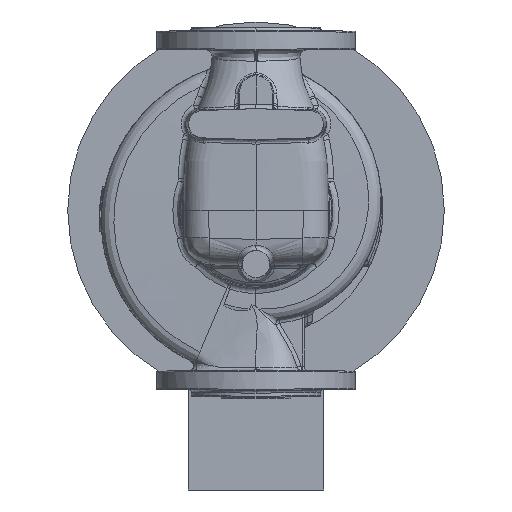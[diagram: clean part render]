
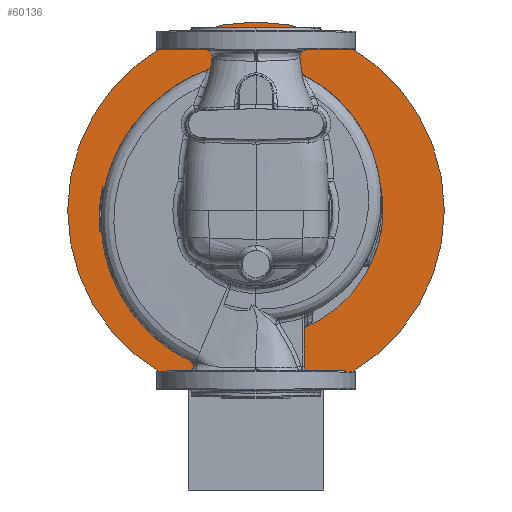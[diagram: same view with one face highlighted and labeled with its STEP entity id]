
A CAD part, front view. The second image highlights one B-rep face of the part: STEP entity #60136.
In plain terms, the highlighted planar face has unit normal (0, -1, 0).
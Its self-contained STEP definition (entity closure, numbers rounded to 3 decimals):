
#150 = PLANE ( 'NONE',  #49321 ) ;
#865 = CARTESIAN_POINT ( 'NONE',  ( 105., 236.3, 0. ) ) ;
#1829 = ORIENTED_EDGE ( 'NONE', *, *, #52069, .T. ) ;
#2861 = VERTEX_POINT ( 'NONE', #25982 ) ;
#4620 = CIRCLE ( 'NONE', #9866, 105. ) ;
#5198 = DIRECTION ( 'NONE',  ( 0., -1., 0. ) ) ;
#5263 = CARTESIAN_POINT ( 'NONE',  ( 0., 236.3, 0. ) ) ;
#6072 = EDGE_CURVE ( 'NONE', #41212, #2861, #4620, .T. ) ;
#9672 = VERTEX_POINT ( 'NONE', #42448 ) ;
#9866 = AXIS2_PLACEMENT_3D ( 'NONE', #42744, #26203, #64430 ) ;
#11528 = EDGE_LOOP ( 'NONE', ( #1829, #54154 ) ) ;
#11871 = ORIENTED_EDGE ( 'NONE', *, *, #12565, .F. ) ;
#12565 = EDGE_CURVE ( 'NONE', #2861, #41212, #16819, .T. ) ;
#13212 = CARTESIAN_POINT ( 'NONE',  ( 0., 236.3, -175. ) ) ;
#13351 = AXIS2_PLACEMENT_3D ( 'NONE', #41956, #35720, #25442 ) ;
#16819 = CIRCLE ( 'NONE', #60286, 105. ) ;
#21254 = AXIS2_PLACEMENT_3D ( 'NONE', #5263, #37599, #21791 ) ;
#21791 = DIRECTION ( 'NONE',  ( 0., 0., -1. ) ) ;
#25442 = DIRECTION ( 'NONE',  ( 0., 0., -1. ) ) ;
#25809 = VERTEX_POINT ( 'NONE', #13212 ) ;
#25982 = CARTESIAN_POINT ( 'NONE',  ( 0., 236.3, 105. ) ) ;
#26203 = DIRECTION ( 'NONE',  ( 0., -1., 0. ) ) ;
#28857 = CIRCLE ( 'NONE', #13351, 175. ) ;
#30682 = CIRCLE ( 'NONE', #21254, 175. ) ;
#35720 = DIRECTION ( 'NONE',  ( 0., -1., 0. ) ) ;
#37599 = DIRECTION ( 'NONE',  ( 0., -1., 0. ) ) ;
#38198 = EDGE_LOOP ( 'NONE', ( #42720, #11871 ) ) ;
#38941 = DIRECTION ( 'NONE',  ( 0., 1., 0. ) ) ;
#41212 = VERTEX_POINT ( 'NONE', #49413 ) ;
#41956 = CARTESIAN_POINT ( 'NONE',  ( 0., 236.3, 0. ) ) ;
#42448 = CARTESIAN_POINT ( 'NONE',  ( 0., 236.3, 175. ) ) ;
#42720 = ORIENTED_EDGE ( 'NONE', *, *, #6072, .F. ) ;
#42744 = CARTESIAN_POINT ( 'NONE',  ( 0., 236.3, 0. ) ) ;
#48709 = DIRECTION ( 'NONE',  ( 0., 0., -1. ) ) ;
#49321 = AXIS2_PLACEMENT_3D ( 'NONE', #865, #38941, #50846 ) ;
#49353 = EDGE_CURVE ( 'NONE', #9672, #25809, #28857, .T. ) ;
#49413 = CARTESIAN_POINT ( 'NONE',  ( 0., 236.3, -105. ) ) ;
#50846 = DIRECTION ( 'NONE',  ( 0., 0., 1. ) ) ;
#51584 = FACE_BOUND ( 'NONE', #38198, .T. ) ;
#52069 = EDGE_CURVE ( 'NONE', #25809, #9672, #30682, .T. ) ;
#54154 = ORIENTED_EDGE ( 'NONE', *, *, #49353, .T. ) ;
#60136 = ADVANCED_FACE ( 'NONE', ( #51584, #68660 ), #150, .F. ) ;
#60286 = AXIS2_PLACEMENT_3D ( 'NONE', #64481, #5198, #48709 ) ;
#64430 = DIRECTION ( 'NONE',  ( 0., 0., -1. ) ) ;
#64481 = CARTESIAN_POINT ( 'NONE',  ( 0., 236.3, 0. ) ) ;
#68660 = FACE_OUTER_BOUND ( 'NONE', #11528, .T. ) ;
